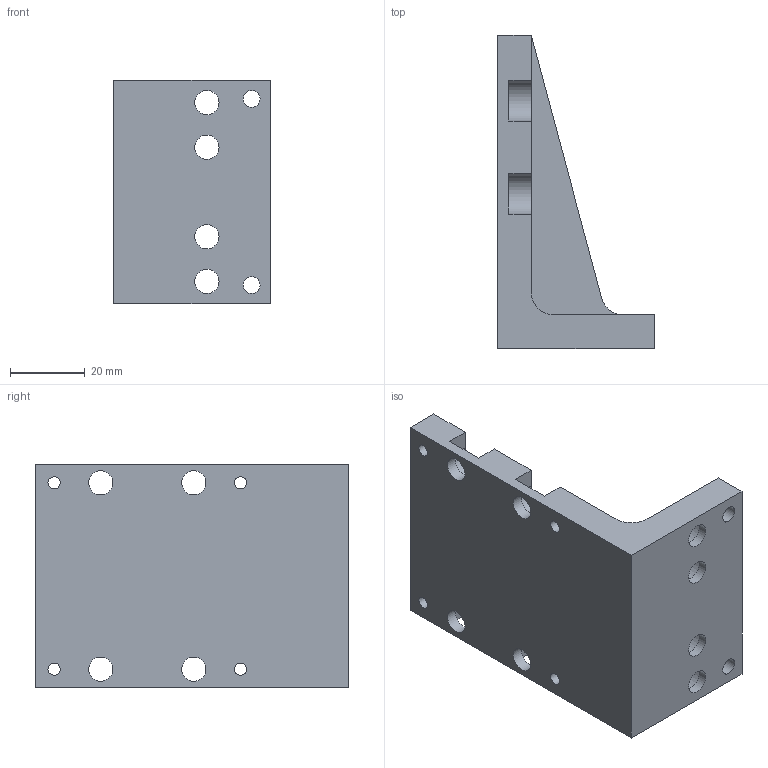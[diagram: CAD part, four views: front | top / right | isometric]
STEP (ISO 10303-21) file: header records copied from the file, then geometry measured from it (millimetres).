
FILE_DESCRIPTION (( 'STEP AP203' ), '1' );
FILE_NAME ('pjk02.STEP', '2020-11-07T05:43:44', ( '' ), ( '' ), 'SwSTEP 2.0', 'SolidWorks 2016', '' );
FILE_SCHEMA (( 'CONFIG_CONTROL_DESIGN' ));
Length unit declared in the file: millimetre
Products named in the file (1): pjk02
Bounding box: 42 x 84 x 60 mm (x, y, z)
Volume: 64578.2 mm3; surface area: 20226.6 mm2
Topology: 1 solids, 1 shells, 57 faces, 159 edges, 110 vertices
Faces by surface type: plane 30, cylinder 27
Full cylindrical faces by diameter (mm): 3.3 x4, 4.5 x2, 6.5 x8, 8 x2, 11 x4
Entity records: 1770 total; most frequent: DIRECTION 295, CARTESIAN_POINT 279, ORIENTED_EDGE 250, EDGE_CURVE 125, AXIS2_PLACEMENT_3D 112, EDGE_LOOP 111, VERTEX_POINT 96, FACE_OUTER_BOUND 77
